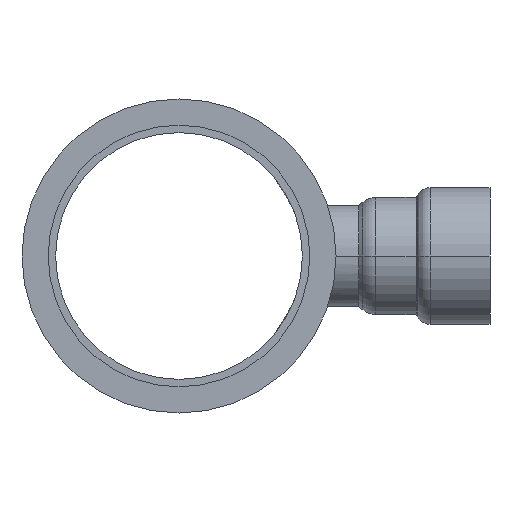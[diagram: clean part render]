
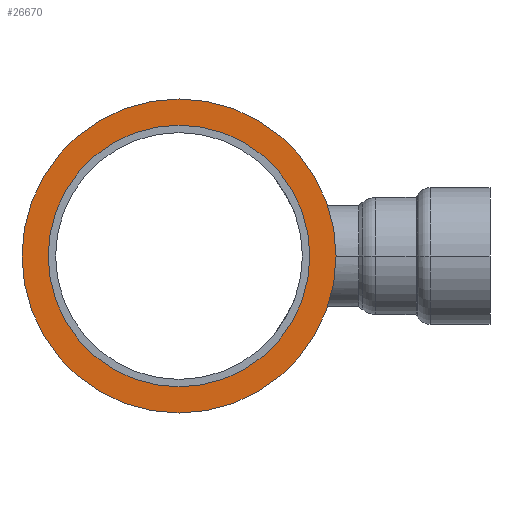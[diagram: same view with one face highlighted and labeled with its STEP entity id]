
A CAD part, left-side view. The second image highlights one B-rep face of the part: STEP entity #26670.
In plain terms, the highlighted planar face has unit normal (-1, 0, 0).
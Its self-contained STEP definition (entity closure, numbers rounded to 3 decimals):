
#26320=CARTESIAN_POINT('',(53.136,49.095,-35.85));
#26330=DIRECTION('',(1.,0.,0.));
#26340=DIRECTION('',(0.,0.,1.));
#26350=AXIS2_PLACEMENT_3D('',#26320,#26330,#26340);
#26360=PLANE('',#26350);
#26370=CARTESIAN_POINT('',(53.136,49.095,
0.));
#26380=DIRECTION('',(1.,0.,0.));
#26390=DIRECTION('',(0.,0.,1.));
#26400=AXIS2_PLACEMENT_3D('',#26370,#26380,#26390);
#26410=CIRCLE('',#26400,30.75);
#26420=CARTESIAN_POINT('',(53.136,49.095,30.75));
#26430=VERTEX_POINT('',#26420);
#26440=CARTESIAN_POINT('',(53.136,49.095,-30.75));
#26450=VERTEX_POINT('',#26440);
#26460=EDGE_CURVE('',#26430,#26450,#26410,.T.);
#26470=ORIENTED_EDGE('',*,*,#26460,.T.);
#26480=EDGE_CURVE('',#26450,#26430,#26410,.T.);
#26490=ORIENTED_EDGE('',*,*,#26480,.T.);
#26500=EDGE_LOOP('',(#26490,#26470));
#26510=FACE_BOUND('',#26500,.T.);
#26520=CARTESIAN_POINT('',(53.136,49.095,
0.));
#26530=DIRECTION('',(1.,0.,0.));
#26540=DIRECTION('',(0.,0.,-1.));
#26550=AXIS2_PLACEMENT_3D('',#26520,#26530,#26540);
#26560=CIRCLE('',#26550,36.9);
#26570=CARTESIAN_POINT('',(53.136,49.095,-36.9));
#26580=VERTEX_POINT('',#26570);
#26590=CARTESIAN_POINT('',(53.136,49.095,36.9));
#26600=VERTEX_POINT('',#26590);
#26610=EDGE_CURVE('',#26580,#26600,#26560,.T.);
#26620=ORIENTED_EDGE('',*,*,#26610,.F.);
#26630=EDGE_CURVE('',#26600,#26580,#26560,.T.);
#26640=ORIENTED_EDGE('',*,*,#26630,.F.);
#26650=EDGE_LOOP('',(#26640,#26620));
#26660=FACE_OUTER_BOUND('',#26650,.T.);
#26670=ADVANCED_FACE('',(#26510,#26660),#26360,.F.);
